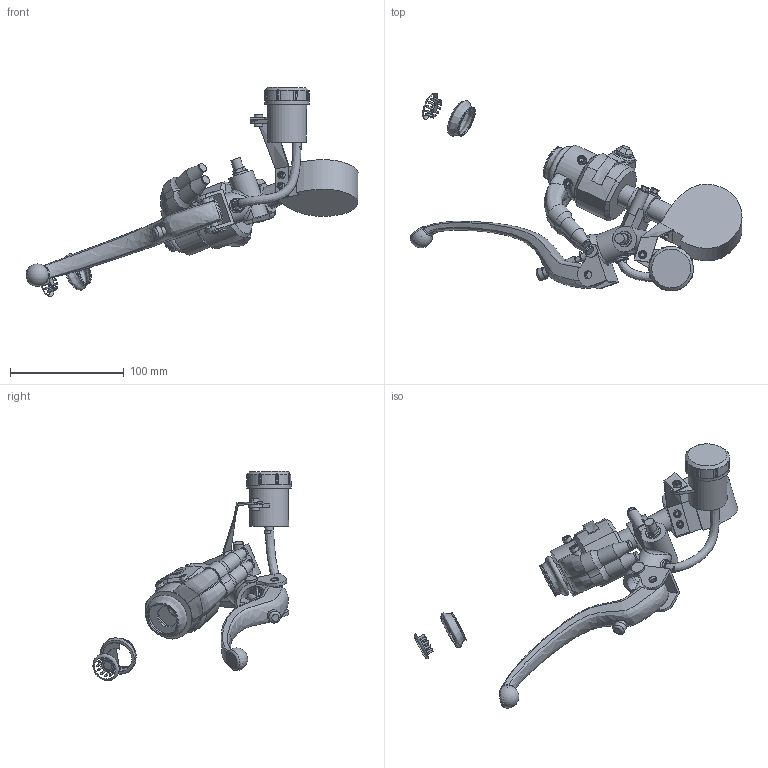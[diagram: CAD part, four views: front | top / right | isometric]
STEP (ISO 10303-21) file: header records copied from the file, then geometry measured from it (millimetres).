
FILE_DESCRIPTION((''),'2;1');
FILE_NAME('Open CASCADE Shape Model','2023-10-24T17:12:40',(''),(''), 'Open CASCADE STEP processor 7.6', 'Autodesk Translation Framework v12.6.0.85','Unknown');
FILE_SCHEMA(('AUTOMOTIVE_DESIGN_CC2 { 1 2 10303 214 -1 1 5 4 }'));
Length unit declared in the file: millimetre
Products named in the file (2): Ninja H2 v54; COMPOUND
Assembly tree (1 placements, depth 2):
  Ninja H2 v54
    COMPOUND
Bounding box: 292.46 x 174.6 x 184.3 mm (x, y, z)
Volume: 479606.6 mm3; surface area: 98428.1 mm2
Topology: 2 solids, 4 shells, 499 faces, 1326 edges, 892 vertices
Faces by surface type: plane 241, cylinder 124, bspline 69, cone 43, torus 21, sphere 1
Full cylindrical faces by diameter (mm): 1.628 x12, 3.68 x2, 3.706 x1, 4.294 x2, 4.636 x1, 4.832 x1, 6.14 x2, 6.843 x4, 6.853 x1, 7.266 x2, 7.288 x2, 7.665 x2, 7.84 x1, 7.958 x1, 8.048 x1, 8.299 x1, 8.353 x1, 8.734 x1, 10.19 x2, 10.86 x1, 11.019 x1, 11.475 x1, 11.745 x1, 13.53 x1, 14.401 x1, 19.453 x3, 20.826 x1, 22.624 x1, 25.605 x1, 25.645 x1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
Entity records: 30638 total; most frequent: CARTESIAN_POINT 18585, ORIENTED_EDGE 2646, DIRECTION 2218, EDGE_CURVE 1323, VERTEX_POINT 892, AXIS2_PLACEMENT_3D 875, FACE_BOUND 571, EDGE_LOOP 571
